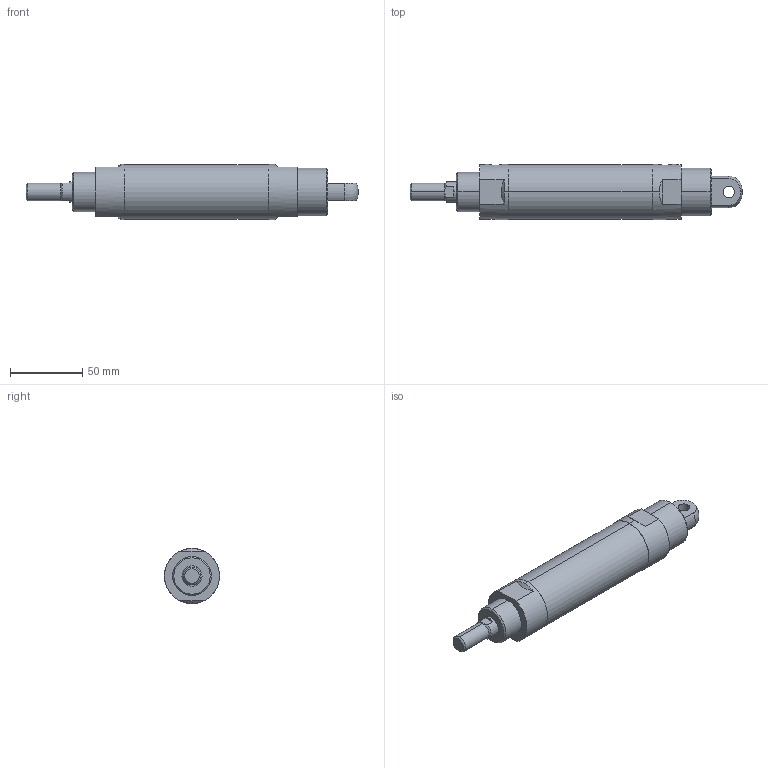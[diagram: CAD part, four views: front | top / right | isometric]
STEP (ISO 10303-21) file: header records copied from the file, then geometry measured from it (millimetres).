
FILE_DESCRIPTION (( 'STEP AP203' ), '1' );
FILE_NAME ('J#2-32-50-C.STEP', '2016-03-08T07:32:29', ( '' ), ( '' ), 'SwSTEP 2.0', 'SolidWorks 2014', '' );
FILE_SCHEMA (( 'CONFIG_CONTROL_DESIGN' ));
Length unit declared in the file: millimetre
Products named in the file (1): J#2-32-50-C
Bounding box: 229 x 38 x 38 mm (x, y, z)
Volume: 186209.7 mm3; surface area: 25868.1 mm2
Topology: 1 solids, 1 shells, 59 faces, 138 edges, 85 vertices
Faces by surface type: cylinder 22, plane 20, cone 15, torus 2
Entity records: 1996 total; most frequent: CARTESIAN_POINT 574, DIRECTION 293, ORIENTED_EDGE 268, EDGE_CURVE 134, AXIS2_PLACEMENT_3D 118, VERTEX_POINT 85, EDGE_LOOP 69, FACE_OUTER_BOUND 59
